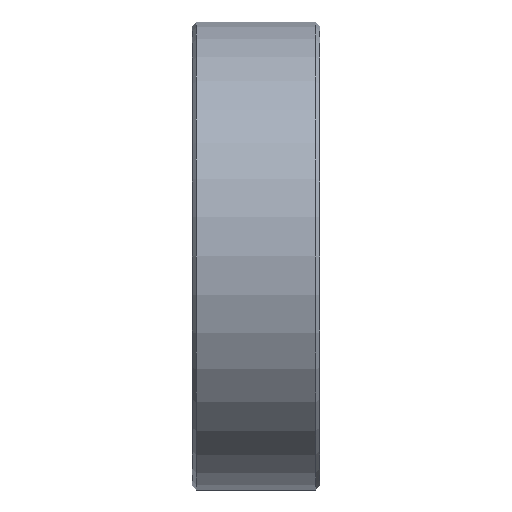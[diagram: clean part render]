
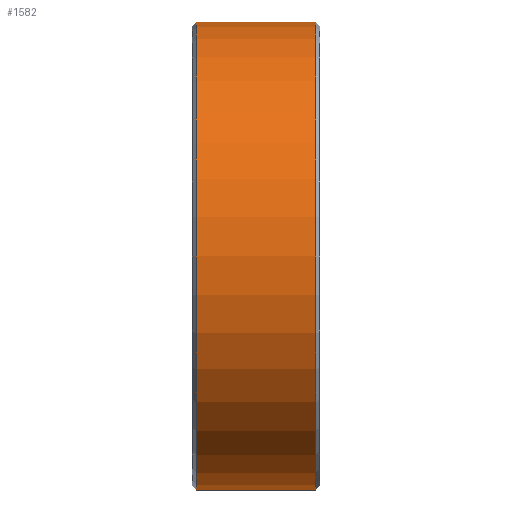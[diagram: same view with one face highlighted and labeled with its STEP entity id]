
A CAD part, front view. The second image highlights one B-rep face of the part: STEP entity #1582.
In plain terms, the highlighted cylindrical face has radius 27.5 mm (diameter 55 mm), a partial arc.
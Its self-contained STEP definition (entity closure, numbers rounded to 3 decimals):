
#104=LINE('',#2128,#178);
#105=LINE('',#2132,#179);
#178=VECTOR('',#1797,1000.);
#179=VECTOR('',#1800,1000.);
#252=ORIENTED_EDGE('',*,*,#544,.T.);
#253=ORIENTED_EDGE('',*,*,#545,.T.);
#254=ORIENTED_EDGE('',*,*,#546,.F.);
#255=ORIENTED_EDGE('',*,*,#547,.T.);
#544=EDGE_CURVE('',#690,#691,#794,.T.);
#545=EDGE_CURVE('',#691,#692,#104,.T.);
#546=EDGE_CURVE('',#693,#692,#795,.T.);
#547=EDGE_CURVE('',#693,#690,#105,.F.);
#690=VERTEX_POINT('',#2126);
#691=VERTEX_POINT('',#2127);
#692=VERTEX_POINT('',#2129);
#693=VERTEX_POINT('',#2131);
#794=CIRCLE('',#1664,27.5);
#795=CIRCLE('',#1665,27.5);
#848=EDGE_LOOP('',(#252,#253,#254,#255));
#946=FACE_BOUND('',#848,.T.);
#1048=CYLINDRICAL_SURFACE('',#1663,27.5);
#1582=ADVANCED_FACE('',(#946),#1048,.T.);
#1663=AXIS2_PLACEMENT_3D('',#2124,#1793,#1794);
#1664=AXIS2_PLACEMENT_3D('',#2125,#1795,#1796);
#1665=AXIS2_PLACEMENT_3D('',#2130,#1798,#1799);
#1793=DIRECTION('',(1.,0.,0.));
#1794=DIRECTION('',(0.,0.,-1.));
#1795=DIRECTION('',(1.,0.,0.));
#1796=DIRECTION('',(0.,0.,-1.));
#1797=DIRECTION('',(1.,0.,0.));
#1798=DIRECTION('',(1.,0.,0.));
#1799=DIRECTION('',(0.,0.,-1.));
#1800=DIRECTION('',(1.,0.,0.));
#2124=CARTESIAN_POINT('',(7.5,0.,0.));
#2125=CARTESIAN_POINT('',(-7.,0.,0.));
#2126=CARTESIAN_POINT('',(-7.,-1.5,27.459));
#2127=CARTESIAN_POINT('',(-7.,-1.5,-27.459));
#2128=CARTESIAN_POINT('',(7.5,-1.5,-27.459));
#2129=CARTESIAN_POINT('',(7.,-1.5,-27.459));
#2130=CARTESIAN_POINT('',(7.,0.,0.));
#2131=CARTESIAN_POINT('',(7.,-1.5,27.459));
#2132=CARTESIAN_POINT('',(7.5,-1.5,27.459));
